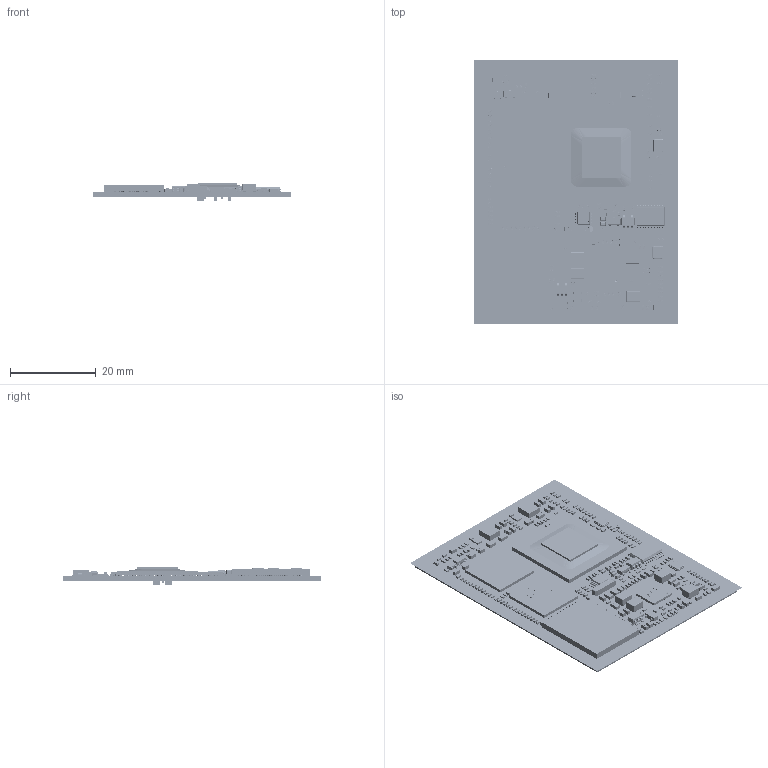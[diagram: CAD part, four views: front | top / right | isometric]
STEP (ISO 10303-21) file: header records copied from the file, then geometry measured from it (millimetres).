
FILE_DESCRIPTION(/* description */ ('PCB Design'),/* implementation_level */ '2;1');
FILE_NAME(/* name */ 'CM3288 V2',/* time_stamp */ '2026-08-13T11:56:17+08:00',/* author */ (''),/* organization */ (''),/* preprocessor_version */ 'ST-DEVELOPER v16',/* originating_system */ 'allegro_17.2S053',/* authorisation */ '');
FILE_SCHEMA (('AUTOMOTIVE_DESIGN { 1 0 10303 214 3 1 1 }'));
Products named in the file (241): CM3288 V2; BOARD_OUTLINE; COMPONENTS; EMI_CLIP; T-0_7; DIP204_60X46MM; SOD523; TSSOP20; LED0603; QFN48-6X6; CRY_MC146; MSOP8; WLCSP-20; BGA169_18R00X14R00X1R20; SOT23-5; IND-4X4; SOT23; R0402S4; SC70_3; P4_SOT143; R0402; IND-3X3; C0603; C0805; C0402; CRY-D3225; BGA636; FBGA178-13X11_5; FBAD810E-5352-496B-9C7A-FD4D1803C7F8; 451466065; TSSOP21; Extruded1; Free-Models1; User Library-TSSOP20_TP; Board1; Fillet; Pocket002; User Library-LED_0603_R; Pocket001; Pad004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
Assembly tree (515 placements, depth 7):
  CM3288 V2
    BOARD_OUTLINE
    COMPONENTS
      EMI_CLIP  x8
      T-0_7  x2
      DIP204_60X46MM
      SOD523  x5
        FBAD810E-5352-496B-9C7A-FD4D1803C7F8
      TSSOP20
        User Library-TSSOP20_TP
          Board1
          Free-Models1
            451466065
              Extruded1
            TSSOP21
      LED0603
        User Library-LED_0603_R
          Pocket002
          Pad004
          Fillet
          Pocket001
          Pad
      QFN48-6X6
        User Library-QFN 48 6x6 pitch 0.4
      CRY_MC146
        User Library-CSYTAL-MC146
      MSOP8
        User Library-msop-8
      WLCSP-20  x2
        24D57714-6645-4F23-9B8F-C4BD29096AC9
      BGA169_18R00X14R00X1R20
        User Library-VFBGA169-14x18x1.4
          Cube
          Solid069
          Solid070
          Solid071
          Solid072
          Solid073
          Solid036
          Solid047
          Solid019
          Solid043
          Solid009
          Solid017
          Solid018
          Solid067
          Solid068
          Solid003
          Solid013
          Solid024
          Solid066
          Solid016
          Solid065
          Solid044
          Solid037
          Solid038
          Solid039
          Solid012
          Solid040
          Solid041
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Bounding box: 47.7 x 61.7 x 4.17 mm (x, y, z)
Volume: 1223.4 mm3; surface area: 17464.3 mm2
Topology: 1477 solids, 2038 shells, 28158 faces, 61518 edges, 35445 vertices
Faces by surface type: bspline 23960, plane 2312, sphere 1208, cylinder 656, cone 14, torus 8
Entity records: 171463 total; most frequent: CARTESIAN_POINT 63841, ORIENTED_EDGE 16716, DIRECTION 15748, EDGE_CURVE 8374, VERTEX_POINT 6228, AXIS2_PLACEMENT_3D 6051, EDGE_LOOP 4545, VECTOR 4391
